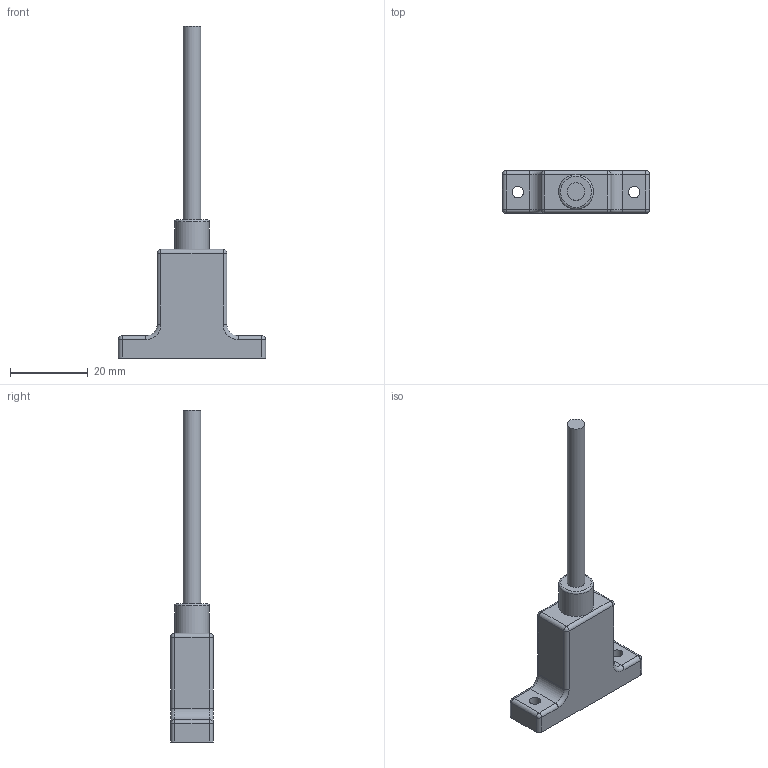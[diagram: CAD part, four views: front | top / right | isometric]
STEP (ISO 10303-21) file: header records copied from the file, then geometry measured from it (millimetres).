
FILE_DESCRIPTION(('FreeCAD Model'),'2;1');
FILE_NAME('Open CASCADE Shape Model','2026-06-04T14:37:35',(''),(''), 'Open CASCADE STEP processor 7.8','FreeCAD','Unknown');
FILE_SCHEMA(('AUTOMOTIVE_DESIGN { 1 0 10303 214 1 1 1 1 }'));
Length unit declared in the file: millimetre
Products named in the file (1): USB2-AMPAF-XXXX_F
Bounding box: 38 x 11 x 85.6 mm (x, y, z)
Volume: 7566.1 mm3; surface area: 3968.4 mm2
Topology: 1 solids, 1 shells, 72 faces, 174 edges, 99 vertices
Faces by surface type: cylinder 32, plane 27, sphere 8, torus 5
Full cylindrical faces by diameter (mm): 3 x2, 4.5 x1, 9 x1
Entity records: 2022 total; most frequent: DIRECTION 378, CARTESIAN_POINT 332, ORIENTED_EDGE 324, EDGE_CURVE 162, AXIS2_PLACEMENT_3D 143, VERTEX_POINT 97, LINE 92, VECTOR 92
